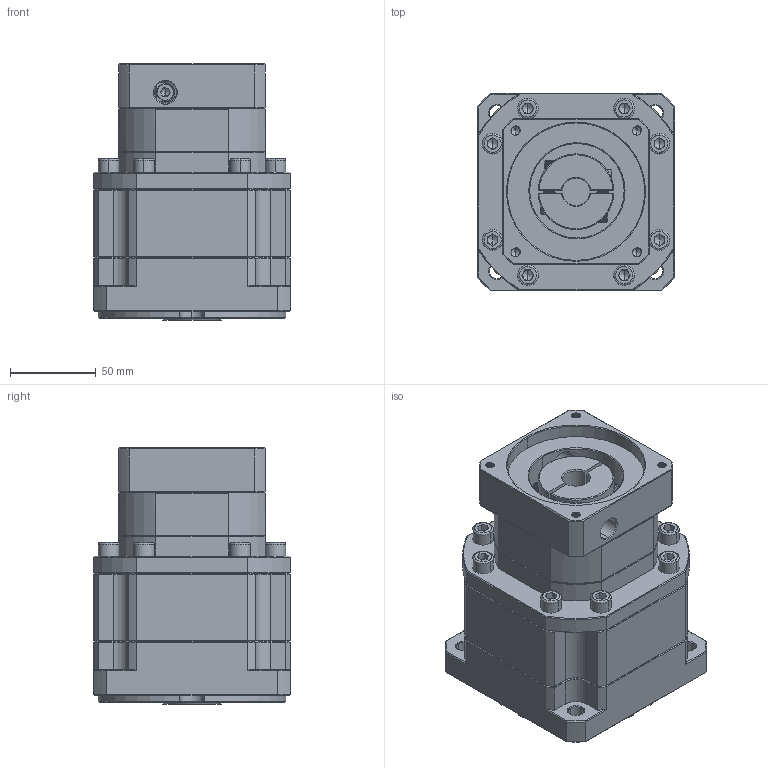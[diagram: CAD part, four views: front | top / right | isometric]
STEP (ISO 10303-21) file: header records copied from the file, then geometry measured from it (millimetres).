
FILE_DESCRIPTION (( 'STEP AP214' ), '1' );
FILE_NAME ('ZB115A-K25-L2-P2-16-80-100-M6.step', '2023-08-26T10:04:34', ( '' ), ( '' ), 'SwSTEP 2.0', 'SolidWorks 2016', '' );
FILE_SCHEMA (( 'AUTOMOTIVE_DESIGN' ));
Length unit declared in the file: millimetre
Products named in the file (1): ZB115A-K25-L2-P2-16-80-100-M6
Bounding box: 115 x 115 x 149 mm (x, y, z)
Volume: 1305445.3 mm3; surface area: 131561 mm2
Topology: 5 solids, 6 shells, 2358 faces, 6182 edges, 3926 vertices
Faces by surface type: plane 1183, bspline 418, cylinder 393, cone 349, torus 15
Entity records: 122899 total; most frequent: CARTESIAN_POINT 42318, ORIENTED_EDGE 12292, DIRECTION 9766, EDGE_CURVE 6146, LINE 3988, VECTOR 3988, VERTEX_POINT 3926, AXIS2_PLACEMENT_3D 2889
